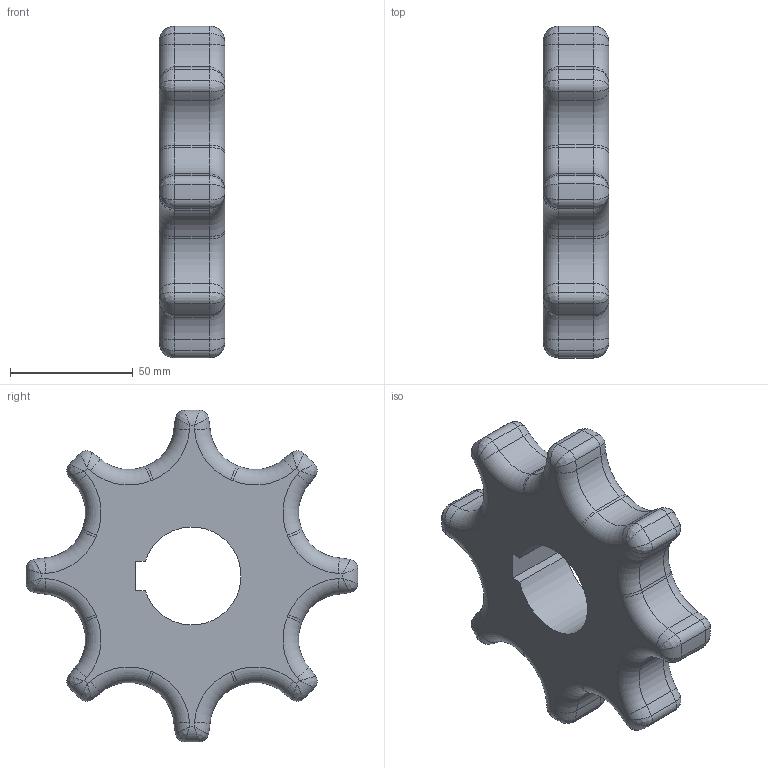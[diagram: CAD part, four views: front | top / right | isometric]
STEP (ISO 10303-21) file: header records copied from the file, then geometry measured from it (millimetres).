
FILE_DESCRIPTION((''),'2;1');
FILE_NAME('S3000_SPROCKET_52X1-1_4_RND','2008-12-12T',('jmumphre'),(''),'PRO/ENGINEER BY PARAMETRIC TECHNOLOGY CORPORATION, 2008150','PRO/ENGINEER BY PARAMETRIC TECHNOLOGY CORPORATION, 2008150','');
FILE_SCHEMA(('CONFIG_CONTROL_DESIGN'));
Length unit declared in the file: inch
Products named in the file (1): S3000_SPROCKET_52X1-1_4_RND
Bounding box: 26.8 x 135.33 x 135.33 mm (x, y, z)
Volume: 226076.4 mm3; surface area: 32208.3 mm2
Topology: 1 solids, 1 shells, 198 faces, 428 edges, 232 vertices
Faces by surface type: torus 80, cylinder 73, bspline 32, plane 13
Entity records: 7354 total; most frequent: CARTESIAN_POINT 3114, DIRECTION 954, ORIENTED_EDGE 856, EDGE_CURVE 428, AXIS2_PLACEMENT_3D 424, CIRCLE 258, VERTEX_POINT 232, EDGE_LOOP 200
